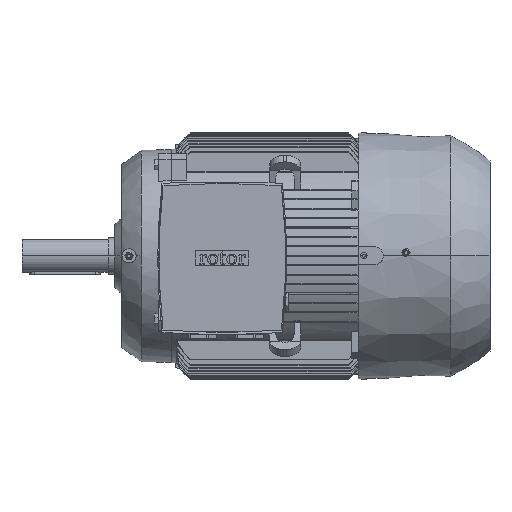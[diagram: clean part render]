
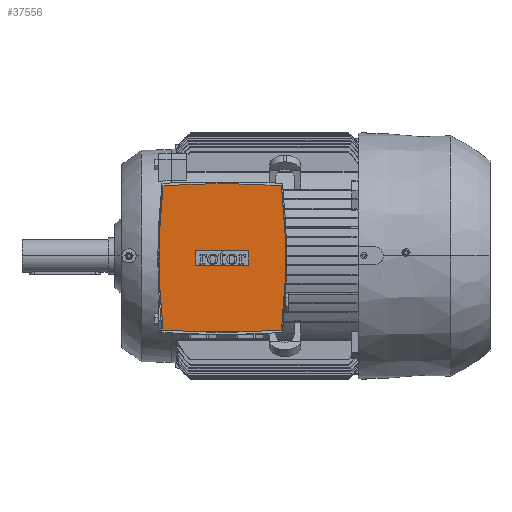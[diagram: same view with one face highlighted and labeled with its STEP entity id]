
A CAD part, top view. The second image highlights one B-rep face of the part: STEP entity #37556.
In plain terms, the highlighted planar face has unit normal (0, 0, 1).
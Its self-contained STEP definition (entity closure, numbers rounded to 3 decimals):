
#699 = EDGE_CURVE ( 'NONE', #38946, #11232, #53245, .T. ) ;
#824 = CIRCLE ( 'NONE', #53897, 1019.7 ) ;
#1135 = VECTOR ( 'NONE', #19938, 1000. ) ;
#1880 = FACE_OUTER_BOUND ( 'NONE', #28230, .T. ) ;
#2344 = CARTESIAN_POINT ( 'NONE',  ( 65., 6.05, 265. ) ) ;
#2690 = CARTESIAN_POINT ( 'NONE',  ( 65., -12.05, 265. ) ) ;
#4083 = ORIENTED_EDGE ( 'NONE', *, *, #699, .T. ) ;
#4172 = ORIENTED_EDGE ( 'NONE', *, *, #45818, .T. ) ;
#6183 = EDGE_CURVE ( 'NONE', #26882, #31787, #22609, .T. ) ;
#6842 = CARTESIAN_POINT ( 'NONE',  ( 98.75, -12.05, 265. ) ) ;
#7843 = DIRECTION ( 'NONE',  ( 0., 1., 0. ) ) ;
#8108 = ORIENTED_EDGE ( 'NONE', *, *, #6183, .T. ) ;
#8653 = DIRECTION ( 'NONE',  ( 0., 0., 1. ) ) ;
#9402 = EDGE_CURVE ( 'NONE', #11232, #18673, #30411, .T. ) ;
#9451 = DIRECTION ( 'NONE',  ( 0., 0., 1. ) ) ;
#10413 = CARTESIAN_POINT ( 'NONE',  ( 98.75, -3., 265. ) ) ;
#11232 = VERTEX_POINT ( 'NONE', #6842 ) ;
#11543 = CARTESIAN_POINT ( 'NONE',  ( 65., -928.2, 265. ) ) ;
#11961 = CARTESIAN_POINT ( 'NONE',  ( -690.5, -3., 265. ) ) ;
#13908 = EDGE_CURVE ( 'NONE', #31787, #36048, #54221, .T. ) ;
#14232 = CARTESIAN_POINT ( 'NONE',  ( 140.455, -94.704, 265. ) ) ;
#15183 = PLANE ( 'NONE',  #51827 ) ;
#15390 = EDGE_LOOP ( 'NONE', ( #23688, #35334, #37157, #4083 ) ) ;
#17866 = ORIENTED_EDGE ( 'NONE', *, *, #13908, .T. ) ;
#17936 = EDGE_CURVE ( 'NONE', #36048, #26822, #49578, .T. ) ;
#18673 = VERTEX_POINT ( 'NONE', #44450 ) ;
#18719 = CARTESIAN_POINT ( 'NONE',  ( 31.25, 6.05, 265. ) ) ;
#19938 = DIRECTION ( 'NONE',  ( 0., 1., 0. ) ) ;
#20030 = FACE_BOUND ( 'NONE', #15390, .T. ) ;
#21651 = CARTESIAN_POINT ( 'NONE',  ( 65., -928.2, 265. ) ) ;
#22098 = EDGE_CURVE ( 'NONE', #29778, #26882, #33448, .T. ) ;
#22504 = LINE ( 'NONE', #2344, #43398 ) ;
#22609 = CIRCLE ( 'NONE', #43545, 836. ) ;
#22978 = CARTESIAN_POINT ( 'NONE',  ( 98.75, 6.05, 265. ) ) ;
#23688 = ORIENTED_EDGE ( 'NONE', *, *, #9402, .T. ) ;
#24004 = DIRECTION ( 'NONE',  ( 1., 0., 0. ) ) ;
#24406 = CARTESIAN_POINT ( 'NONE',  ( 65., 91.5, 265. ) ) ;
#25554 = DIRECTION ( 'NONE',  ( 0., 1., 0. ) ) ;
#26346 = VECTOR ( 'NONE', #45730, 1000. ) ;
#26822 = VERTEX_POINT ( 'NONE', #44899 ) ;
#26882 = VERTEX_POINT ( 'NONE', #28203 ) ;
#27052 = VECTOR ( 'NONE', #53779, 1000. ) ;
#27559 = CARTESIAN_POINT ( 'NONE',  ( -10.455, -94.704, 265. ) ) ;
#28203 = CARTESIAN_POINT ( 'NONE',  ( -10.455, 88.704, 265. ) ) ;
#28230 = EDGE_LOOP ( 'NONE', ( #8108, #17866, #30420, #4172, #42281 ) ) ;
#28580 = CARTESIAN_POINT ( 'NONE',  ( 65., -3., 265. ) ) ;
#29778 = VERTEX_POINT ( 'NONE', #24406 ) ;
#30411 = LINE ( 'NONE', #2690, #26346 ) ;
#30420 = ORIENTED_EDGE ( 'NONE', *, *, #17936, .T. ) ;
#31787 = VERTEX_POINT ( 'NONE', #27559 ) ;
#33312 = CARTESIAN_POINT ( 'NONE',  ( 65., 922.2, 265. ) ) ;
#33448 = CIRCLE ( 'NONE', #55600, 1019.7 ) ;
#34802 = LINE ( 'NONE', #45708, #1135 ) ;
#35334 = ORIENTED_EDGE ( 'NONE', *, *, #38509, .T. ) ;
#35398 = DIRECTION ( 'NONE',  ( 0., 1., 0. ) ) ;
#36048 = VERTEX_POINT ( 'NONE', #14232 ) ;
#36062 = VERTEX_POINT ( 'NONE', #18719 ) ;
#36964 = AXIS2_PLACEMENT_3D ( 'NONE', #33312, #8653, #25554 ) ;
#37013 = DIRECTION ( 'NONE',  ( 0., 0., 1. ) ) ;
#37157 = ORIENTED_EDGE ( 'NONE', *, *, #51533, .T. ) ;
#37556 = ADVANCED_FACE ( 'NONE', ( #1880, #20030 ), #15183, .T. ) ;
#38509 = EDGE_CURVE ( 'NONE', #18673, #36062, #34802, .T. ) ;
#38946 = VERTEX_POINT ( 'NONE', #22978 ) ;
#39167 = DIRECTION ( 'NONE',  ( 0., 1., 0. ) ) ;
#40036 = AXIS2_PLACEMENT_3D ( 'NONE', #11961, #46933, #7843 ) ;
#41629 = DIRECTION ( 'NONE',  ( 0., 0., 1. ) ) ;
#42281 = ORIENTED_EDGE ( 'NONE', *, *, #22098, .T. ) ;
#43398 = VECTOR ( 'NONE', #45737, 1000. ) ;
#43545 = AXIS2_PLACEMENT_3D ( 'NONE', #44392, #48897, #35398 ) ;
#44392 = CARTESIAN_POINT ( 'NONE',  ( 820.5, -3., 265. ) ) ;
#44450 = CARTESIAN_POINT ( 'NONE',  ( 31.25, -12.05, 265. ) ) ;
#44899 = CARTESIAN_POINT ( 'NONE',  ( 140.455, 88.704, 265. ) ) ;
#45708 = CARTESIAN_POINT ( 'NONE',  ( 31.25, -3., 265. ) ) ;
#45730 = DIRECTION ( 'NONE',  ( -1., 0., 0. ) ) ;
#45737 = DIRECTION ( 'NONE',  ( 1., 0., 0. ) ) ;
#45818 = EDGE_CURVE ( 'NONE', #26822, #29778, #824, .T. ) ;
#46933 = DIRECTION ( 'NONE',  ( 0., 0., 1. ) ) ;
#48897 = DIRECTION ( 'NONE',  ( 0., 0., 1. ) ) ;
#49578 = CIRCLE ( 'NONE', #40036, 836. ) ;
#51533 = EDGE_CURVE ( 'NONE', #36062, #38946, #22504, .T. ) ;
#51827 = AXIS2_PLACEMENT_3D ( 'NONE', #28580, #37013, #24004 ) ;
#53245 = LINE ( 'NONE', #10413, #27052 ) ;
#53652 = DIRECTION ( 'NONE',  ( 0., 1., 0. ) ) ;
#53779 = DIRECTION ( 'NONE',  ( 0., -1., 0. ) ) ;
#53897 = AXIS2_PLACEMENT_3D ( 'NONE', #11543, #41629, #53652 ) ;
#54221 = CIRCLE ( 'NONE', #36964, 1019.7 ) ;
#55600 = AXIS2_PLACEMENT_3D ( 'NONE', #21651, #9451, #39167 ) ;
